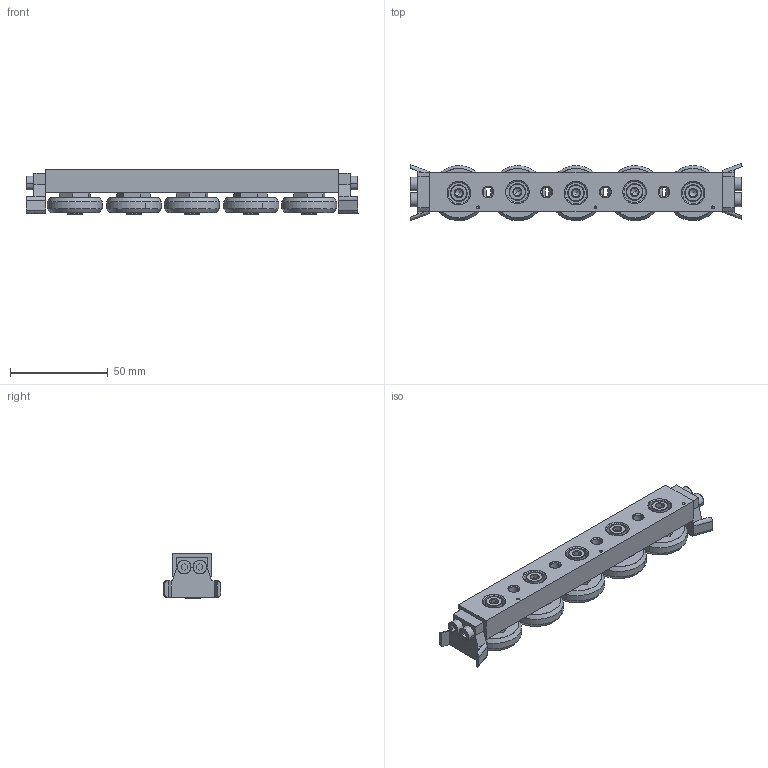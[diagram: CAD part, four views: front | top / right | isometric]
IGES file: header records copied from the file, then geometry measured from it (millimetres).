
Start section: SolidWorks IGES file using analytic representation for surfaces
Global section: file name: C:\Users\liam_\OneDrive\Documents\WORK\Work for WixRoyd\Job Files\J-00018 - L1918-L1963 LCompact Rail\L1935_v2\L1935.CSW35_v2\L1935.CSW35_v2_20190522_IGES\L1935.CSW35-150-2ZU.igs; native system: SolidWorks 2017; preprocessor: SolidWorks 2017; author: liam_; date: 190528.222912; units: millimetre
Bounding box: 170 x 29.4 x 22.85 mm (x, y, z)
Surface area: 27679.3 mm2 (no closed solid volume)
Topology: 0 solids, 0 shells, 514 faces, 6157 edges, 6127 vertices
Faces by surface type: revolution 275, bspline 239
